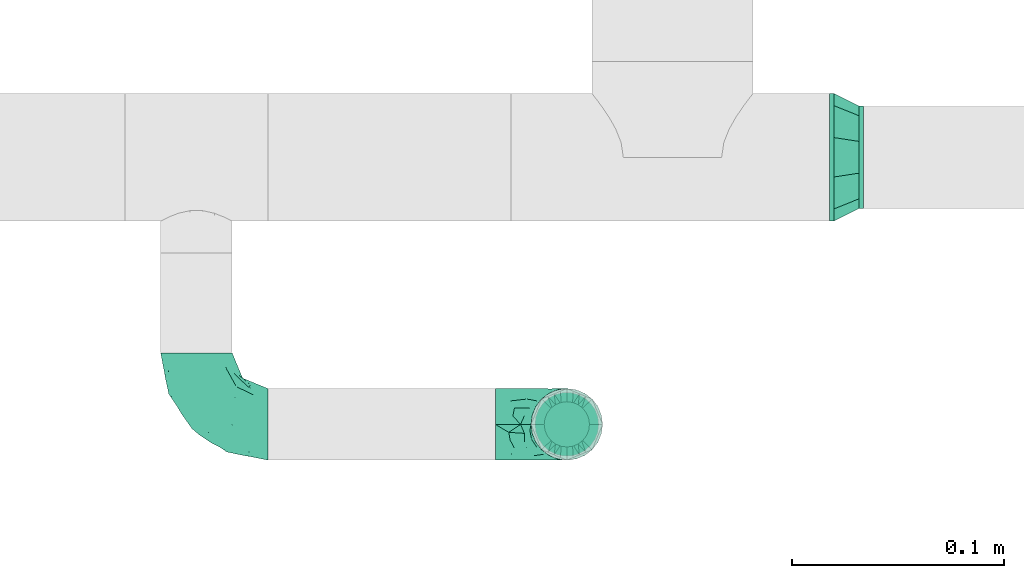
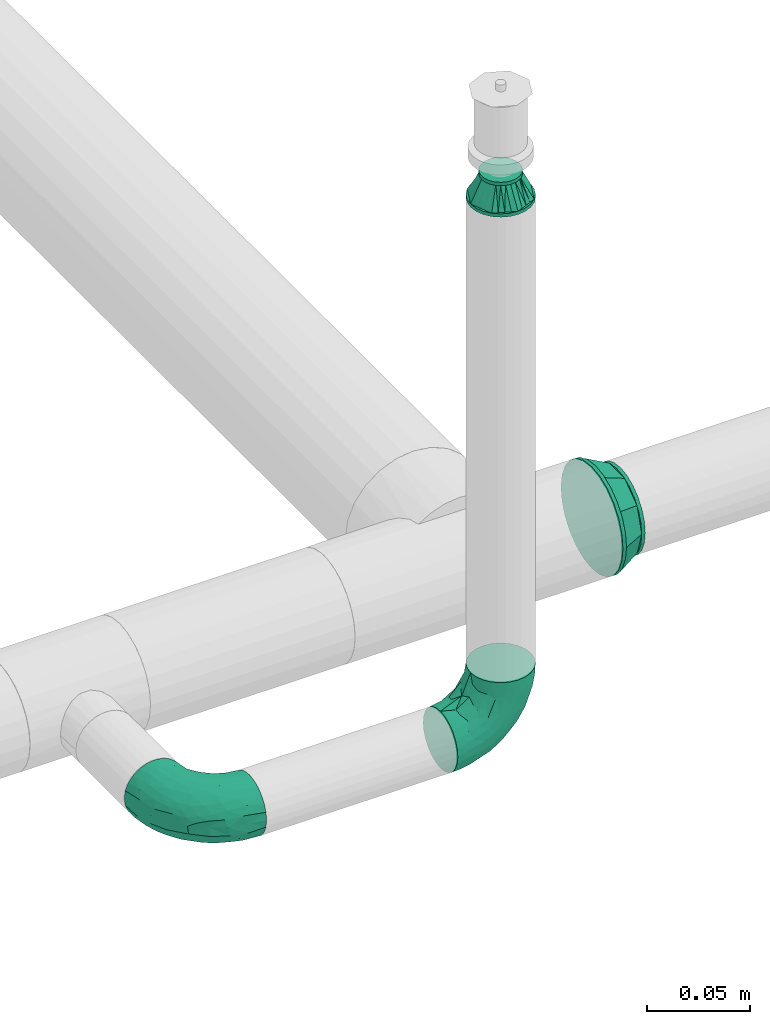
# One storey, part 79 of 157: 4 flow fittings.
"""IFC2X3 building model written with IfcOpenShell, lengths in millimetres."""

from ifc_helpers import new_model, entity, si_unit, converted_unit, derived_unit, direction, frame, origin_with_axes, place, context, subcontext, project, spatial, open_shell, surface_model, source, transform, mapped, type_object, element, save


model = new_model("IFC2X3")

# Units and contexts
model_context = context("Model", 3, precision=0.01, world=frame((0.0, 4.29681676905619e-09, 0.0)), true_north=direction((4.01073788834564e-13, 1.0)))
plan_context = context("Plan", 3, precision=0.01, world=frame((0.0, 4.29681676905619e-09, 0.0)), true_north=direction((4.01073788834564e-13, 1.0)))
body_context = subcontext(model_context, "Body", "Model", "MODEL_VIEW")
ifc_project = project(units=[converted_unit("PLANEANGLEUNIT", "DEGREE", entity("IfcPositiveLengthMeasure", 0.0174532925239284), si_unit("PLANEANGLEUNIT", "RADIAN"), dimensions=[0, 0, 0, 0, 0, 0, 0]), si_unit("AREAUNIT", "SQUARE_METRE"), si_unit("LENGTHUNIT", "METRE", prefix="MILLI"), si_unit("MASSUNIT", "GRAM", prefix="KILO"), si_unit("POWERUNIT", "WATT"), si_unit("PRESSUREUNIT", "PASCAL"), si_unit("FORCEUNIT", "NEWTON", prefix="KILO"), si_unit("ELECTRICCURRENTUNIT", "AMPERE"), si_unit("THERMODYNAMICTEMPERATUREUNIT", "DEGREE_CELSIUS"), si_unit("TIMEUNIT", "SECOND"), si_unit("VOLUMEUNIT", "CUBIC_METRE"), derived_unit("LINEARVELOCITYUNIT", [(si_unit("LENGTHUNIT", "METRE"), 1), (si_unit("TIMEUNIT", "SECOND"), -1)]), derived_unit("VOLUMETRICFLOWRATEUNIT", [(si_unit("VOLUMEUNIT", "CUBIC_METRE"), 1), (si_unit("TIMEUNIT", "SECOND"), -1)]), derived_unit("THERMALTRANSMITTANCEUNIT", [(si_unit("POWERUNIT", "WATT"), 1), (si_unit("THERMODYNAMICTEMPERATUREUNIT", "KELVIN"), -1), (si_unit("AREAUNIT", "SQUARE_METRE"), -1)])], contexts=[model_context, plan_context])

# Site, building, storey
site_placement = place(None, frame((0.0, -4.29681676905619e-09, 0.0), z_axis=(0.0, 0.0, 1.0), x_axis=(1.0, 0.0, 0.0)))
site = spatial("IfcSite", under=ifc_project, at=site_placement, CompositionType="ELEMENT")
building_placement = place(site_placement, frame((0.0, 4.29681676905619e-09, 0.0), z_axis=(0.0, 0.0, 1.0), x_axis=(1.0, 0.0, 0.0)))
building = spatial("IfcBuilding", under=site, at=building_placement, Name="mc-building", CompositionType="ELEMENT")
storey_placement = place(building_placement, frame((0.0, 0.0, 204000.0), z_axis=(0.0, 0.0, 1.0), x_axis=(1.0, 0.0, 0.0)))
storey = spatial("IfcBuildingStorey", under=building, at=storey_placement, Name="Nivå D", CompositionType="ELEMENT", Elevation=204000.0)

# Flow fittings
pipe_fitting_type_1 = type_object("IfcPipeFittingType", Name="magi_pipe_fe_elbow_short_001", PredefinedType="BEND")
shared_shape_1 = source(origin_with_axes(), body_context, "Body", "SurfaceModel", [
    surface_model("IfcShellBasedSurfaceModel", [(-33.8, 8.45, -14.63583), (-33.8, 4.37404, -16.32415), (-33.8, 11.9501, -11.9501), (-33.8, -11.9501, -11.9501), (-33.8, -14.63583, -8.45), (-33.8, -8.45, -14.63583), (-33.8, 0.0, -16.9), (-33.8, -4.37404, -16.32415), (-33.8, -4.37404, 16.32415), (-33.8, 0.0, 16.9), (-33.8, -8.45, 14.63583), (-33.8, 16.32415, -4.37404), (-33.8, 14.63583, -8.45), (-33.8, -16.32415, -4.37404), (-33.8, -16.9, 0.0), (-33.8, -16.32415, 4.37404), (-33.8, 11.9501, 11.9501), (-33.8, 14.63583, 8.45), (-33.8, 16.32415, 4.37404), (-33.8, 4.37404, 16.32415), (-33.8, 8.45, 14.63583), (-33.8, -14.63583, 8.45), (-33.8, -11.9501, 11.9501), (-33.8, 16.9, 0.0), (-11.9501, 33.8, -11.9501), (0.0, 33.8, -16.9), (-4.37404, 33.8, -16.32415), (-8.45, 33.8, -14.63583), (-14.63583, 33.8, -8.45), (-16.32415, 33.8, -4.37404), (14.63583, 33.8, -8.45), (8.45, 33.8, 14.63583), (16.32415, 33.8, -4.37404), (8.45, 33.8, -14.63583), (11.9501, 33.8, -11.9501), (4.37404, 33.8, -16.32415), (16.32415, 33.8, 4.37404), (16.9, 33.8, 0.0), (-11.9501, 33.8, 11.9501), (-16.32415, 33.8, 4.37404), (-14.63583, 33.8, 8.45), (-8.45, 33.8, 14.63583), (-4.37404, 33.8, 16.32415), (11.9501, 33.8, 11.9501), (14.63583, 33.8, 8.45), (0.0, 33.8, 16.9), (4.37404, 33.8, 16.32415), (-16.9, 33.8, 0.0), (-24.79389, -13.12945, 9.48721), (-22.19287, -9.75018, 12.59315), (-24.09897, -14.97035, 0.0), (-14.93934, -10.76256, 8.5297), (-22.46095, -14.75051, 5.27077), (14.75051, 22.46094, 5.27077), (11.9251, 13.23888, 4.33236), (13.04069, 14.39795, 0.0), (7.71387, 13.68847, 11.55891), (9.75018, 22.19287, 12.59315), (4.10169, 13.0571, 14.04018), (-24.84007, -6.39063, 15.2048), (-25.81779, -2.23879, 16.61097), (-23.66549, 2.59054, 16.87119), (-26.50418, 14.06512, 11.08152), (-24.21253, 17.66365, 7.72657), (-29.58514, 15.86957, 7.00283), (-6.17382, -7.5455, 0.0), (-13.23888, -11.9251, 4.33236), (-14.39795, -13.04069, 0.0), (-17.81434, 18.87373, 11.97104), (-6.30846, 29.15138, 15.82987), (-2.31622, 25.28002, 16.85849), (-29.23923, 10.23435, 13.77053), (-1.45439, -2.85688, 7.61475), (-0.28326, 0.34872, 10.09509), (-5.74484, -4.04709, 10.4122), (-4.41137, 11.31918, 16.59407), (-8.39727, 3.10034, 15.7812), (-1.72649, 9.1306, 15.53089), (-17.39909, 24.75344, 7.64977), (-26.19233, 20.0512, 0.0), (-28.14518, 17.29657, 4.25857), (-26.05147, 6.6281, 15.96447), (-5.87354, 16.61944, 16.86968), (-12.51807, 12.51807, 16.48937), (-10.06312, 7.38516, 16.81295), (-3.01882, 3.01882, 13.81718), (-13.0571, -4.10169, 14.04018), (-16.82553, -0.15166, 16.38038), (10.76256, 14.93934, 8.5297), (13.12945, 24.79389, 9.48721), (6.39063, 24.84007, 15.2048), (2.23879, 25.81779, 16.61097), (-13.68847, -7.71387, 11.55891), (14.97035, 24.09897, 0.0), (-7.30894, 22.89991, 16.09489), (-10.67958, 26.17414, 14.008), (-12.78295, 18.26924, 15.06066), (-13.88562, 22.45231, 12.93244), (-18.04944, 15.16501, 14.04434), (-23.11658, 20.08178, 4.02986), (-21.84989, 21.84989, 0.0), (-18.55817, 25.48277, 3.93065), (-13.95142, 26.94732, 11.03289), (-18.57098, 7.23906, 16.59756), (-16.58335, 4.14122, 16.89279), (-17.96666, 11.46709, 15.63151), (-9.84453, 17.54304, 16.18938), (0.15166, 16.82553, 16.38038), (-23.27207, 11.47201, 14.23154), (3.84842, 5.86994, 10.70473), (-8.0212, -7.54413, 7.93275), (1.00345, -2.19508, 4.57414), (5.13203, 3.01004, 5.90201), (5.24161, 1.7543, 2.53265), (8.70457, 7.04947, 3.99182), (-20.0512, 26.19233, 0.0), (8.4852, 8.76699, 7.09296), (-4.55488, -6.72064, 4.90681), (2.05031, -2.05031, 0.0), (7.5455, 6.17382, 0.0), (-26.75399, 2.1369, -16.845), (-14.61995, 24.73803, -11.27736), (-28.45274, -13.45335, -9.81895), (-26.00469, 6.63555, -15.96645), (-23.06726, 20.04573, -4.26202), (-13.80647, -4.26506, -14.17873), (-14.67501, -0.21081, -16.07388), (-6.7902, -0.2828, -13.8478), (-24.53586, 11.08096, -14.13417), (-26.72048, 14.00837, -11.05776), (10.0967, 24.44989, -12.75976), (5.83237, 21.40218, -15.03047), (6.66249, 28.54238, -15.38093), (-20.38182, 15.48705, -12.74596), (12.53268, 21.23441, -9.15363), (12.54494, 15.67504, -5.54878), (9.7522, 12.89279, -8.66343), (-15.65186, 19.64213, -13.01327), (-12.03528, 20.66498, -14.67665), (-15.61907, 15.61906, -14.83879), (-25.56551, -15.26206, 0.0), (-24.65452, -15.12934, -5.50955), (13.45335, 28.45274, -9.81895), (15.12934, 24.65452, -5.50955), (-7.35442, -8.31014, -5.65563), (-15.67504, -12.54494, -5.54878), (-24.44989, -10.0967, -12.75976), (0.16522, 0.41303, -9.71728), (-5.70658, -5.33066, -8.89288), (-5.13869, -2.37198, -11.53565), (-21.23441, -12.53268, -9.15363), (0.71146, 7.93863, -14.09382), (0.21081, 14.67501, -16.07388), (3.49291, 14.42772, -14.76381), (-24.89911, -2.13088, -16.591), (-28.54238, -6.66249, -15.38093), (-18.44386, -7.71663, -13.26957), (2.13088, 24.89911, -16.591), (-28.64342, 17.44413, -2.89318), (1.70017, -1.28722, -5.09504), (-16.57067, 26.81947, -7.36596), (-17.69055, 27.4263, -3.76405), (-12.89279, -9.7522, -8.66343), (-5.96611, 5.96611, -15.95814), (-20.53709, 20.09345, -8.28985), (-2.1369, 26.75399, -16.845), (-6.89872, 24.58781, -16.02578), (-10.60739, 26.53157, -13.98044), (-21.40218, -5.83237, -15.03047), (2.93192, 5.89627, -11.55917), (6.89393, 12.61842, -11.82233), (5.58056, 5.95325, -8.79455), (-3.99512, 18.61798, -16.89635), (8.31014, 7.35442, -5.65563), (-9.1383, 9.86148, -16.89041), (-9.99983, 16.02119, -16.39699), (-16.68576, 9.78031, -16.34199), (-27.01915, 16.61158, -7.12979), (15.26206, 25.56551, 0.0), (-18.61798, 3.99512, -16.89635), (-19.37495, 27.82495, 0.0), (-12.61842, -6.89393, -11.82233), (-18.84705, 19.14018, -10.96545)], [open_shell([[[0, 1, 2]], [[3, 4, 5]], [[6, 7, 5]], [[8, 9, 10]], [[1, 6, 2]], [[11, 12, 2]], [[4, 2, 6]], [[2, 13, 10]], [[5, 4, 6]], [[2, 4, 13]], [[14, 15, 13]], [[11, 2, 16]], [[11, 17, 18]], [[11, 16, 17]], [[19, 20, 16]], [[16, 2, 10]], [[19, 16, 10]], [[21, 22, 15]], [[22, 13, 15]], [[22, 10, 13]], [[10, 9, 19]], [[11, 18, 23]], [[24, 25, 26]], [[24, 26, 27]], [[24, 28, 29]], [[25, 24, 30]], [[31, 32, 24]], [[33, 30, 34]], [[33, 35, 25]], [[25, 30, 33]], [[32, 30, 24]], [[32, 36, 37]], [[38, 24, 29]], [[39, 40, 29]], [[40, 38, 29]], [[38, 41, 42]], [[38, 31, 24]], [[31, 38, 42]], [[36, 43, 44]], [[36, 32, 43]], [[31, 45, 46]], [[32, 31, 43]], [[42, 45, 31]], [[39, 29, 47]], [[22, 48, 49]], [[15, 14, 50]], [[51, 48, 52]], [[53, 54, 55]], [[48, 22, 21]], [[15, 52, 21]], [[56, 57, 58]], [[49, 10, 22]], [[49, 59, 10]], [[9, 60, 61]], [[62, 63, 64]], [[65, 66, 67]], [[57, 43, 31]], [[62, 68, 63]], [[42, 69, 70]], [[20, 71, 16]], [[8, 60, 9]], [[72, 73, 74]], [[75, 76, 77]], [[16, 62, 17]], [[40, 39, 78]], [[79, 23, 80]], [[64, 18, 17]], [[9, 61, 19]], [[19, 81, 20]], [[82, 83, 84]], [[74, 85, 86]], [[59, 86, 87]], [[88, 89, 57]], [[90, 31, 46]], [[44, 53, 36]], [[46, 45, 91]], [[54, 53, 88]], [[44, 89, 53]], [[92, 86, 49]], [[89, 44, 43]], [[10, 59, 8]], [[53, 55, 93]], [[93, 36, 53]], [[66, 52, 67]], [[94, 82, 70]], [[95, 96, 94]], [[97, 98, 96]], [[79, 99, 100]], [[41, 38, 95]], [[101, 100, 99]], [[68, 78, 63]], [[42, 41, 69]], [[23, 18, 80]], [[95, 94, 69]], [[78, 101, 99]], [[38, 102, 95]], [[70, 45, 42]], [[97, 95, 102]], [[15, 50, 52]], [[90, 57, 31]], [[57, 90, 58]], [[81, 19, 61]], [[103, 104, 84]], [[105, 81, 103]], [[38, 40, 102]], [[106, 96, 83]], [[94, 106, 82]], [[91, 70, 107]], [[71, 62, 16]], [[62, 108, 98]], [[86, 59, 49]], [[67, 52, 50]], [[60, 59, 87]], [[92, 49, 51]], [[86, 85, 76]], [[91, 90, 46]], [[37, 36, 93]], [[107, 77, 58]], [[107, 58, 90]], [[58, 85, 109]], [[110, 74, 92]], [[72, 74, 110]], [[66, 51, 52]], [[72, 111, 112]], [[113, 114, 112]], [[56, 88, 57]], [[52, 48, 21]], [[49, 48, 51]], [[57, 89, 43]], [[53, 89, 88]], [[103, 81, 61]], [[71, 81, 108]], [[18, 64, 80]], [[63, 78, 99]], [[47, 115, 101]], [[101, 115, 100]], [[40, 78, 102]], [[68, 102, 78]], [[97, 96, 95]], [[105, 98, 108]], [[103, 84, 83]], [[107, 70, 82]], [[76, 84, 87]], [[82, 84, 75]], [[70, 91, 45]], [[90, 91, 107]], [[59, 60, 8]], [[61, 60, 87]], [[73, 85, 74]], [[109, 112, 116]], [[103, 61, 104]], [[105, 103, 83]], [[96, 105, 83]], [[81, 105, 108]], [[96, 98, 105]], [[62, 98, 68]], [[61, 87, 104]], [[87, 84, 104]], [[86, 76, 87]], [[77, 76, 85]], [[58, 77, 85]], [[75, 77, 107]], [[82, 75, 107]], [[76, 75, 84]], [[81, 71, 20]], [[62, 71, 108]], [[95, 69, 41]], [[70, 69, 94]], [[62, 64, 17]], [[80, 63, 99]], [[63, 80, 64]], [[80, 99, 79]], [[66, 65, 117]], [[110, 66, 117]], [[112, 114, 116]], [[118, 117, 65]], [[110, 92, 51]], [[112, 111, 113]], [[119, 55, 54]], [[74, 86, 92]], [[58, 109, 56]], [[116, 56, 109]], [[66, 110, 51]], [[72, 110, 117]], [[111, 72, 117]], [[73, 112, 109]], [[117, 118, 111]], [[113, 111, 118]], [[118, 119, 113]], [[114, 119, 54]], [[119, 114, 113]], [[116, 54, 88]], [[54, 116, 114]], [[116, 88, 56]], [[112, 73, 72]], [[85, 73, 109]], [[78, 39, 101]], [[47, 101, 39]], [[102, 68, 97]], [[97, 68, 98]], [[82, 106, 83]], [[94, 96, 106]], [[1, 120, 6]], [[28, 24, 121]], [[3, 122, 4]], [[0, 123, 1]], [[100, 124, 79]], [[125, 126, 127]], [[128, 2, 129]], [[130, 131, 132]], [[128, 129, 133]], [[134, 135, 136]], [[137, 138, 139]], [[128, 0, 2]], [[67, 140, 141]], [[134, 142, 143]], [[141, 13, 4]], [[144, 65, 145]], [[146, 3, 5]], [[147, 148, 149]], [[145, 141, 150]], [[151, 152, 153]], [[154, 7, 6]], [[5, 155, 146]], [[150, 146, 156]], [[155, 5, 7]], [[143, 135, 134]], [[35, 157, 25]], [[23, 79, 158]], [[148, 159, 144]], [[160, 161, 29]], [[145, 162, 144]], [[163, 152, 151]], [[29, 28, 160]], [[121, 164, 160]], [[33, 34, 130]], [[25, 165, 26]], [[26, 165, 166]], [[142, 34, 30]], [[24, 27, 167]], [[124, 161, 164]], [[157, 35, 132]], [[155, 154, 168]], [[123, 0, 128]], [[169, 170, 171]], [[172, 157, 152]], [[26, 166, 27]], [[132, 35, 33]], [[142, 130, 34]], [[168, 154, 126]], [[136, 135, 173]], [[133, 137, 139]], [[2, 12, 129]], [[170, 131, 130]], [[30, 32, 143]], [[172, 174, 175]], [[176, 123, 128]], [[158, 177, 11]], [[135, 55, 119]], [[167, 27, 166]], [[175, 166, 172]], [[137, 167, 138]], [[122, 141, 4]], [[140, 14, 13]], [[32, 37, 178]], [[170, 130, 134]], [[152, 157, 131]], [[165, 157, 172]], [[153, 170, 151]], [[152, 163, 174]], [[168, 125, 156]], [[122, 146, 150]], [[120, 154, 6]], [[179, 174, 126]], [[179, 126, 154]], [[126, 163, 127]], [[162, 145, 150]], [[140, 13, 141]], [[32, 178, 143]], [[55, 143, 178]], [[177, 129, 12]], [[128, 133, 139]], [[176, 128, 139]], [[120, 123, 179]], [[121, 160, 28]], [[161, 100, 180]], [[166, 175, 138]], [[121, 24, 167]], [[161, 47, 29]], [[79, 124, 158]], [[124, 164, 177]], [[161, 124, 100]], [[136, 171, 170]], [[127, 163, 151]], [[147, 171, 159]], [[148, 144, 162]], [[127, 151, 169]], [[127, 181, 125]], [[129, 177, 164]], [[12, 11, 177]], [[159, 65, 144]], [[67, 141, 145]], [[143, 55, 135]], [[135, 119, 173]], [[123, 120, 1]], [[154, 120, 179]], [[157, 165, 25]], [[166, 165, 172]], [[172, 152, 174]], [[176, 139, 175]], [[126, 174, 163]], [[176, 174, 179]], [[174, 176, 175]], [[123, 176, 179]], [[150, 181, 162]], [[127, 149, 181]], [[181, 148, 162]], [[159, 148, 147]], [[171, 136, 173]], [[170, 134, 136]], [[159, 171, 173]], [[171, 147, 169]], [[169, 147, 149]], [[151, 170, 169]], [[164, 182, 129]], [[182, 121, 137]], [[181, 149, 148]], [[169, 149, 127]], [[182, 137, 133]], [[167, 137, 121]], [[166, 138, 167]], [[175, 139, 138]], [[129, 182, 133]], [[121, 182, 164]], [[161, 160, 164]], [[47, 161, 180]], [[177, 158, 124]], [[23, 158, 11]], [[130, 132, 33]], [[157, 132, 131]], [[143, 142, 30]], [[130, 142, 134]], [[154, 155, 7]], [[146, 155, 168]], [[146, 122, 3]], [[141, 122, 150]], [[152, 131, 153]], [[159, 119, 118]], [[67, 145, 65]], [[170, 153, 131]], [[119, 159, 173]], [[159, 118, 65]], [[156, 125, 181]], [[126, 125, 168]], [[150, 156, 181]], [[168, 156, 146]]])]),
])
for number, where, z_axis, x_axis, name in (
    (1, (520435.35, 413913.20018, 2690.0), (0.0, 1.0, 0.0), (0.0, 0.0, -1.0), "magi_pipe_fe_elbow_short_001"),
    (2, (520260.35, 413913.20018, 2690.0), (0.0, 0.0, 1.0), (0.0, -1.0, 0.0), "magi_pipe_fe_elbow_short_001"),
):
    element("IfcFlowFitting", number, at=place(storey_placement, frame(where, z_axis=z_axis, x_axis=x_axis)), inside=storey, type_object=pipe_fitting_type_1, Name=name, context=body_context, shape_type="MappedRepresentation", body=[
        mapped(shared_shape_1, transform((0.0, 0.0, 0.0), scale=1.0)),
    ])
pipe_fitting_type_2 = type_object("IfcPipeFittingType", Name="magi_pipe_fe_reducer_centric_short_NOR", PredefinedType="TRANSITION")
shared_shape_2 = source(origin_with_axes(), body_context, "Body", "SurfaceModel", [
    surface_model("IfcShellBasedSurfaceModel", [(-2.0, -7.56604, -7.56604), (-2.0, -10.33541, -2.76936), (-2.0, -5.35, -9.26647), (-2.0, 5.35, -9.26647), (-2.0, 10.33541, -2.76936), (-2.0, 7.56604, -7.56604), (12.4, 11.9501, 11.9501), (12.4, 0.0, 16.9), (12.4, 11.9501, -11.9501), (12.4, 16.9, 0.0), (0.0, -10.7, 0.0), (0.0, -5.35, 9.26647), (0.0, -5.35, -9.26647), (0.0, 10.7, 0.0), (12.4, 15.66253, -2.98753), (12.4, 8.96258, -13.18758), (0.0, 6.6875, -6.94985), (12.4, -15.66253, -2.98753), (12.4, -16.9, 0.0), (12.4, 5.97505, -14.42505), (0.0, 5.35, -9.26647), (12.4, 14.42505, -5.97505), (0.0, 8.025, -4.63324), (0.0, 9.3625, -2.31662), (0.0, -9.3625, -2.31662), (0.0, -8.025, -4.63324), (12.4, -14.42505, -5.97505), (12.4, 13.18758, -8.96258), (12.4, -13.18758, -8.96258), (12.4, -11.9501, -11.9501), (0.0, -6.6875, -6.94985), (12.4, -8.96258, -13.18758), (12.4, -5.97505, -14.42505), (12.4, -15.66253, 2.98753), (12.4, -8.96258, 13.18758), (0.0, -6.6875, 6.94985), (12.4, -11.9501, 11.9501), (12.4, 15.66253, 2.98753), (12.4, -5.97505, 14.42505), (12.4, -14.42505, 5.97505), (0.0, -8.025, 4.63324), (0.0, -9.3625, 2.31662), (0.0, 9.3625, 2.31662), (0.0, 8.025, 4.63324), (12.4, 14.42505, 5.97505), (12.4, -13.18758, 8.96258), (12.4, 13.18758, 8.96258), (0.0, 6.6875, 6.94985), (12.4, 8.96258, 13.18758), (0.0, 5.35, 9.26647), (12.4, 5.97505, 14.42505), (14.4, 4.37404, -16.32415), (14.4, 8.45, -14.63583), (14.4, 11.9501, -11.9501), (14.4, -8.45, -14.63583), (14.4, 16.32415, -4.37404), (14.4, 16.32415, 4.37404), (14.4, 14.63583, -8.45), (14.4, 0.0, -16.9), (14.4, -4.37404, -16.32415), (14.4, -11.9501, -11.9501), (14.4, -16.32415, -4.37404), (14.4, -14.63583, -8.45), (14.4, -16.32415, 4.37404), (14.4, 16.9, 0.0), (14.4, 14.63583, 8.45), (14.4, 11.9501, 11.9501), (14.4, 4.37404, 16.32415), (14.4, 8.45, 14.63583), (14.4, 0.0, 16.9), (14.4, -14.63583, 8.45), (14.4, -16.9, 0.0), (14.4, -8.45, 14.63583), (14.4, -11.9501, 11.9501), (14.4, -4.37404, 16.32415), (12.4, 4.37404, 16.32415), (12.4, -14.63583, 8.45), (12.4, 16.32415, 4.37404), (12.4, 8.45, 14.63583), (12.4, 14.63583, 8.45), (12.4, -8.45, 14.63583), (12.4, -4.37404, 16.32415), (12.4, -16.32415, 4.37404), (12.4, -16.32415, -4.37404), (12.4, -8.45, -14.63583), (12.4, 16.32415, -4.37404), (12.4, 14.63583, -8.45), (12.4, 8.45, -14.63583), (12.4, 4.37404, -16.32415), (12.4, 0.0, -16.9), (12.4, -14.63583, -8.45), (12.4, -4.37404, -16.32415), (-2.0, 2.76936, 10.33541), (-2.0, 0.0, 10.7), (-2.0, 5.35, 9.26647), (-2.0, 7.56604, 7.56604), (-2.0, 9.26647, 5.35), (-2.0, 10.33541, 2.76936), (-2.0, -10.33541, 2.76936), (-2.0, -2.76936, 10.33541), (-2.0, -7.56604, 7.56604), (-2.0, -5.35, 9.26647), (-2.0, -9.26647, 5.35), (-2.0, -10.7, 0.0), (-2.0, 9.26647, -5.35), (-2.0, 2.76936, -10.33541), (-2.0, -9.26647, -5.35), (-2.0, 0.0, -10.7), (-2.0, -2.76936, -10.33541), (-2.0, 10.7, 0.0), (0.0, 0.0, -10.7), (0.0, 2.76936, -10.33541), (0.0, 10.33541, -2.76936), (0.0, 7.56604, -7.56604), (0.0, -10.33541, -2.76936), (0.0, 9.26647, -5.35), (0.0, 0.0, 10.7), (0.0, -2.76936, -10.33541), (0.0, -7.56604, -7.56604), (0.0, -9.26647, -5.35), (0.0, 10.33541, 2.76936), (0.0, 9.26647, 5.35), (0.0, 7.56604, 7.56604), (0.0, 2.76936, 10.33541), (0.0, -7.56604, 7.56604), (0.0, -10.33541, 2.76936), (0.0, -9.26647, 5.35), (0.0, -2.76936, 10.33541), (0.0, 2.675, -9.26647), (0.0, -2.675, -9.26647), (12.4, 2.98753, -15.66253), (0.0, 0.0, -9.26647), (12.4, -2.98753, -15.66253), (0.0, -2.675, 9.26647), (0.0, 2.675, 9.26647), (12.4, -2.98753, 15.66253), (0.0, 0.0, 9.26647), (12.4, 2.98753, 15.66253)], [open_shell([[[0, 1, 2]], [[3, 4, 5]], [[6, 7, 8]], [[8, 9, 6]], [[10, 11, 12]], [[13, 9, 14]], [[15, 16, 8]], [[17, 18, 10]], [[15, 19, 20]], [[21, 22, 23]], [[24, 25, 26]], [[22, 21, 27]], [[28, 26, 25]], [[29, 30, 31]], [[12, 32, 31]], [[10, 18, 33]], [[34, 35, 36]], [[37, 9, 13]], [[34, 38, 11]], [[39, 40, 41]], [[42, 43, 44]], [[40, 39, 45]], [[46, 44, 43]], [[6, 47, 48]], [[49, 50, 48]], [[51, 52, 53]], [[54, 51, 53]], [[53, 55, 56]], [[55, 53, 57]], [[53, 56, 54]], [[58, 54, 59]], [[58, 51, 54]], [[60, 61, 62]], [[61, 60, 54]], [[54, 63, 61]], [[56, 55, 64]], [[56, 65, 66]], [[56, 66, 67]], [[67, 63, 54]], [[67, 66, 68]], [[63, 67, 69]], [[69, 70, 63]], [[71, 61, 63]], [[70, 72, 73]], [[70, 69, 72]], [[72, 69, 74]], [[54, 56, 67]], [[75, 76, 7]], [[77, 75, 78]], [[6, 79, 77]], [[6, 77, 78]], [[76, 75, 77]], [[80, 76, 36]], [[80, 81, 7]], [[7, 76, 80]], [[82, 76, 77]], [[82, 83, 18]], [[82, 77, 84]], [[77, 85, 8]], [[8, 85, 86]], [[8, 87, 88]], [[84, 77, 8]], [[88, 89, 8]], [[83, 29, 90]], [[29, 83, 84]], [[84, 89, 91]], [[83, 82, 84]], [[8, 89, 84]], [[85, 77, 9]], [[83, 61, 18]], [[90, 62, 83]], [[54, 29, 84]], [[90, 29, 60]], [[59, 84, 91]], [[83, 62, 61]], [[61, 71, 18]], [[59, 54, 84]], [[60, 29, 54]], [[60, 62, 90]], [[58, 59, 91]], [[91, 89, 58]], [[88, 51, 89]], [[87, 52, 88]], [[57, 8, 86]], [[87, 8, 53]], [[55, 86, 85]], [[87, 53, 52]], [[52, 51, 88]], [[64, 55, 85]], [[57, 86, 55]], [[57, 53, 8]], [[9, 64, 85]], [[89, 51, 58]], [[77, 56, 9]], [[79, 65, 77]], [[68, 6, 78]], [[79, 6, 66]], [[67, 78, 75]], [[77, 65, 56]], [[56, 64, 9]], [[67, 68, 78]], [[66, 6, 68]], [[66, 65, 79]], [[69, 67, 75]], [[75, 7, 69]], [[81, 74, 7]], [[80, 72, 81]], [[70, 36, 76]], [[80, 36, 73]], [[63, 76, 82]], [[80, 73, 72]], [[72, 74, 81]], [[71, 63, 82]], [[70, 76, 63]], [[70, 73, 36]], [[18, 71, 82]], [[7, 74, 69]], [[92, 1, 93]], [[94, 1, 92]], [[95, 96, 97]], [[95, 97, 94]], [[98, 93, 1]], [[99, 100, 101]], [[99, 93, 100]], [[100, 98, 102]], [[93, 98, 100]], [[98, 1, 103]], [[94, 97, 1]], [[1, 97, 4]], [[5, 4, 104]], [[4, 3, 1]], [[105, 1, 3]], [[1, 0, 106]], [[2, 107, 108]], [[2, 1, 105]], [[105, 107, 2]], [[4, 97, 109]], [[20, 110, 111]], [[112, 20, 113]], [[114, 20, 112]], [[112, 113, 115]], [[116, 114, 112]], [[110, 12, 117]], [[110, 20, 12]], [[118, 114, 119]], [[114, 118, 12]], [[20, 114, 12]], [[112, 13, 120]], [[120, 121, 122]], [[120, 122, 123]], [[116, 112, 123]], [[123, 122, 49]], [[116, 124, 114]], [[125, 124, 126]], [[10, 114, 125]], [[124, 127, 11]], [[125, 114, 124]], [[127, 124, 116]], [[123, 112, 120]], [[1, 114, 103]], [[106, 119, 1]], [[12, 0, 2]], [[106, 0, 118]], [[117, 2, 108]], [[1, 119, 114]], [[114, 10, 103]], [[117, 12, 2]], [[118, 0, 12]], [[118, 119, 106]], [[110, 117, 108]], [[108, 107, 110]], [[105, 111, 107]], [[3, 20, 105]], [[115, 5, 104]], [[3, 5, 113]], [[112, 104, 4]], [[3, 113, 20]], [[20, 111, 105]], [[13, 112, 4]], [[115, 104, 112]], [[115, 113, 5]], [[109, 13, 4]], [[107, 111, 110]], [[97, 120, 109]], [[96, 121, 97]], [[49, 95, 94]], [[96, 95, 122]], [[123, 94, 92]], [[97, 121, 120]], [[120, 13, 109]], [[123, 49, 94]], [[122, 95, 49]], [[122, 121, 96]], [[116, 123, 92]], [[92, 93, 116]], [[99, 127, 93]], [[101, 11, 99]], [[126, 100, 102]], [[101, 100, 124]], [[125, 102, 98]], [[101, 124, 11]], [[11, 127, 99]], [[10, 125, 98]], [[126, 102, 125]], [[126, 124, 100]], [[103, 10, 98]], [[93, 127, 116]], [[18, 7, 36]], [[18, 29, 8]], [[89, 8, 29]], [[18, 8, 7]], [[13, 11, 49]], [[13, 20, 12]], [[13, 12, 11]], [[24, 26, 17]], [[10, 24, 17]], [[16, 15, 20]], [[30, 12, 31]], [[23, 14, 21]], [[19, 128, 20]], [[27, 8, 16]], [[32, 12, 129]], [[30, 28, 25]], [[130, 131, 128]], [[129, 132, 32]], [[16, 22, 27]], [[13, 14, 23]], [[128, 19, 130]], [[130, 89, 131]], [[131, 132, 129]], [[89, 132, 131]], [[28, 30, 29]], [[42, 44, 37]], [[13, 42, 37]], [[35, 34, 11]], [[47, 49, 48]], [[41, 33, 39]], [[38, 133, 11]], [[45, 36, 35]], [[50, 49, 134]], [[47, 46, 43]], [[135, 136, 133]], [[134, 137, 50]], [[35, 40, 45]], [[10, 33, 41]], [[133, 38, 135]], [[135, 7, 136]], [[136, 137, 134]], [[7, 137, 136]], [[46, 47, 6]]])]),
])
flow_fitting_1_placement = place(storey_placement, frame((520435.35, 413913.20018, 3014.54800000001), z_axis=(0.0, 1.0, 0.0), x_axis=(0.0, 0.0, -1.0)))
element("IfcFlowFitting", 3, at=flow_fitting_1_placement, inside=storey, type_object=pipe_fitting_type_2, Name="magi_pipe_fe_reducer_centric_short_NOR", context=body_context, shape_type="MappedRepresentation", body=[
    mapped(shared_shape_2, transform((0.0, 0.0, 0.0), scale=1.0)),
])
shared_shape_3 = source(origin_with_axes(), body_context, "Body", "SurfaceModel", [
    surface_model("IfcShellBasedSurfaceModel", [(-2.0, 0.0, 30.2), (-2.0, 7.81634, 29.17096), (-2.0, 15.1, 26.15397), (-2.0, 21.35462, 21.35462), (-2.0, 26.15397, 15.1), (-2.0, 29.17096, 7.81634), (-2.0, -29.17096, 7.81634), (-2.0, 30.2, 0.0), (-2.0, -7.81634, 29.17096), (-2.0, -21.35462, 21.35462), (-2.0, -15.1, 26.15397), (-2.0, -26.15397, 15.1), (-2.0, -30.2, 0.0), (-2.0, 29.17096, -7.81634), (-2.0, 26.15397, -15.1), (-2.0, 21.35462, -21.35462), (-2.0, 15.1, -26.15397), (-2.0, 7.81634, -29.17096), (-2.0, -15.1, -26.15397), (-2.0, -29.17096, -7.81634), (-2.0, -21.35462, -21.35462), (-2.0, -26.15397, -15.1), (-2.0, 0.0, -30.2), (-2.0, -7.81634, -29.17096), (0.0, 7.81634, -29.17096), (0.0, 15.1, -26.15397), (0.0, 21.35462, -21.35462), (0.0, 30.2, 0.0), (0.0, 26.15397, -15.1), (0.0, 29.17096, -7.81634), (0.0, -15.1, -26.15397), (0.0, -29.17096, 7.81634), (0.0, 0.0, -30.2), (0.0, -7.81634, -29.17096), (0.0, -21.35462, -21.35462), (0.0, -29.17096, -7.81634), (0.0, -26.15397, -15.1), (0.0, 29.17096, 7.81634), (0.0, 26.15397, 15.1), (0.0, 21.35462, 21.35462), (0.0, -21.35462, 21.35462), (0.0, 15.1, 26.15397), (0.0, 7.81634, 29.17096), (0.0, 0.0, 30.2), (0.0, -26.15397, 15.1), (0.0, -30.2, 0.0), (0.0, -7.81634, 29.17096), (0.0, -15.1, 26.15397), (14.0, 12.1, -20.95781), (14.0, -24.2, 0.0), (14.0, 6.26342, -23.37541), (14.0, 23.37541, -6.26342), (14.0, 17.11198, -17.11198), (14.0, 20.95781, -12.1), (14.0, -17.11198, -17.11198), (14.0, -6.26342, -23.37541), (14.0, -12.1, -20.95781), (14.0, 0.0, -24.2), (14.0, -23.37541, -6.26342), (14.0, -20.95781, -12.1), (14.0, 24.2, 0.0), (14.0, 23.37541, 6.26342), (14.0, 20.95781, 12.1), (14.0, 17.11198, 17.11198), (14.0, 12.1, 20.95781), (14.0, 6.26342, 23.37541), (14.0, 0.0, 24.2), (14.0, -23.37541, 6.26342), (14.0, -17.11198, 17.11198), (14.0, -20.95781, 12.1), (14.0, -6.26342, 23.37541), (14.0, -12.1, 20.95781), (12.0, 0.0, 24.2), (12.0, 6.26342, 23.37541), (12.0, 12.1, 20.95781), (12.0, 17.11198, 17.11198), (12.0, 20.95781, 12.1), (12.0, 23.37541, 6.26342), (12.0, -23.37541, 6.26342), (12.0, -17.11198, -17.11198), (12.0, -6.26342, 23.37541), (12.0, -17.11198, 17.11198), (12.0, -12.1, 20.95781), (12.0, -20.95781, 12.1), (12.0, -24.2, 0.0), (12.0, 24.2, 0.0), (12.0, 17.11198, -17.11198), (12.0, 23.37541, -6.26342), (12.0, 20.95781, -12.1), (12.0, 12.1, -20.95781), (12.0, 6.26342, -23.37541), (12.0, -23.37541, -6.26342), (12.0, -20.95781, -12.1), (12.0, -6.26342, -23.37541), (12.0, -12.1, -20.95781), (12.0, 0.0, -24.2), (12.0, -7.47821, 23.01557), (12.0, -19.57821, 14.2244), (12.0, 19.57821, 14.2244), (12.0, 7.47821, 23.01557), (12.0, -7.47821, -23.01557), (12.0, -19.57821, -14.2244), (12.0, 7.47821, -23.01557), (12.0, 19.57821, -14.2244), (0.0, 9.33231, 28.72191), (0.0, 24.43231, 17.75111), (0.0, -9.33231, 28.72191), (0.0, -24.43231, 17.75111), (0.0, 9.33231, -28.72191), (0.0, 24.43231, -17.75111), (0.0, -9.33231, -28.72191), (0.0, -24.43231, -17.75111), (12.0, 13.52821, -18.61999), (0.0, 16.88231, -23.23651), (0.0, 27.31616, -8.87556), (12.0, 21.8891, -7.1122), (0.0, -27.48172, -8.36602), (12.0, 0.0, -23.01557), (0.0, 0.0, -28.72191), (12.0, -21.8891, -7.1122), (0.0, -16.88231, -23.23651), (12.0, -13.52821, -18.61999), (12.0, -13.52821, 18.61999), (0.0, -16.88231, 23.23651), (0.0, -27.31616, 8.87556), (12.0, -21.8891, 7.1122), (0.0, 27.48172, 8.36602), (12.0, 0.0, 23.01557), (0.0, 0.0, 28.72191), (12.0, 21.8891, 7.1122), (0.0, 16.88231, 23.23651), (12.0, 13.52821, 18.61999)], [open_shell([[[0, 1, 2]], [[0, 2, 3]], [[3, 4, 5]], [[0, 3, 6]], [[7, 6, 3]], [[8, 9, 10]], [[8, 0, 9]], [[9, 6, 11]], [[0, 6, 9]], [[6, 7, 12]], [[7, 3, 5]], [[7, 13, 14]], [[7, 14, 15]], [[15, 16, 17]], [[15, 17, 7]], [[17, 18, 12]], [[19, 20, 21]], [[20, 19, 18]], [[18, 22, 23]], [[19, 12, 18]], [[17, 22, 18]], [[12, 7, 17]], [[24, 25, 26]], [[24, 26, 27]], [[28, 29, 27]], [[28, 27, 26]], [[30, 24, 31]], [[32, 30, 33]], [[32, 24, 30]], [[34, 35, 36]], [[35, 34, 30]], [[30, 31, 35]], [[31, 24, 27]], [[37, 38, 39]], [[27, 39, 40]], [[41, 42, 43]], [[40, 39, 41]], [[40, 41, 43]], [[31, 40, 44]], [[45, 35, 31]], [[40, 46, 47]], [[31, 27, 40]], [[46, 40, 43]], [[37, 39, 27]], [[19, 35, 12]], [[21, 36, 19]], [[30, 20, 18]], [[21, 20, 34]], [[33, 18, 23]], [[19, 36, 35]], [[35, 45, 12]], [[33, 30, 18]], [[34, 20, 30]], [[34, 36, 21]], [[32, 33, 23]], [[23, 22, 32]], [[17, 24, 22]], [[16, 25, 17]], [[28, 15, 14]], [[16, 15, 26]], [[29, 14, 13]], [[16, 26, 25]], [[25, 24, 17]], [[27, 29, 13]], [[28, 14, 29]], [[28, 26, 15]], [[7, 27, 13]], [[22, 24, 32]], [[5, 37, 7]], [[4, 38, 5]], [[41, 3, 2]], [[4, 3, 39]], [[42, 2, 1]], [[5, 38, 37]], [[37, 27, 7]], [[42, 41, 2]], [[39, 3, 41]], [[39, 38, 4]], [[43, 42, 1]], [[1, 0, 43]], [[8, 46, 0]], [[10, 47, 8]], [[44, 9, 11]], [[10, 9, 40]], [[31, 11, 6]], [[10, 40, 47]], [[47, 46, 8]], [[45, 31, 6]], [[44, 11, 31]], [[44, 40, 9]], [[12, 45, 6]], [[0, 46, 43]], [[48, 49, 50]], [[51, 48, 52]], [[48, 51, 49]], [[51, 52, 53]], [[49, 54, 50]], [[55, 54, 56]], [[55, 57, 50]], [[54, 58, 59]], [[55, 50, 54]], [[54, 49, 58]], [[60, 49, 51]], [[61, 62, 63]], [[60, 63, 49]], [[64, 65, 66]], [[64, 66, 63]], [[49, 63, 66]], [[67, 68, 69]], [[70, 67, 49]], [[68, 70, 71]], [[70, 68, 67]], [[49, 66, 70]], [[63, 60, 61]], [[72, 73, 74]], [[72, 74, 75]], [[75, 76, 77]], [[72, 75, 78]], [[75, 79, 78]], [[80, 81, 82]], [[80, 72, 81]], [[81, 78, 83]], [[72, 78, 81]], [[78, 79, 84]], [[75, 77, 85]], [[86, 85, 87]], [[86, 87, 88]], [[89, 90, 85]], [[89, 85, 86]], [[90, 79, 75]], [[91, 79, 92]], [[84, 79, 91]], [[79, 93, 94]], [[79, 90, 93]], [[95, 93, 90]], [[75, 85, 90]], [[91, 58, 84]], [[92, 59, 91]], [[56, 79, 94]], [[92, 79, 54]], [[55, 94, 93]], [[91, 59, 58]], [[58, 49, 84]], [[55, 56, 94]], [[54, 79, 56]], [[54, 59, 92]], [[57, 55, 93]], [[93, 95, 57]], [[90, 50, 95]], [[89, 48, 90]], [[53, 86, 88]], [[89, 86, 52]], [[51, 88, 87]], [[89, 52, 48]], [[48, 50, 90]], [[60, 51, 87]], [[53, 88, 51]], [[53, 52, 86]], [[85, 60, 87]], [[95, 50, 57]], [[77, 61, 85]], [[76, 62, 77]], [[64, 75, 74]], [[76, 75, 63]], [[65, 74, 73]], [[77, 62, 61]], [[61, 60, 85]], [[65, 64, 74]], [[63, 75, 64]], [[63, 62, 76]], [[66, 65, 73]], [[73, 72, 66]], [[80, 70, 72]], [[82, 71, 80]], [[69, 81, 83]], [[82, 81, 68]], [[67, 83, 78]], [[82, 68, 71]], [[71, 70, 80]], [[49, 67, 78]], [[69, 83, 67]], [[69, 68, 81]], [[84, 49, 78]], [[72, 70, 66]], [[96, 97, 98]], [[96, 98, 99]], [[98, 97, 85]], [[97, 100, 85]], [[101, 100, 97]], [[102, 103, 85]], [[85, 100, 102]], [[84, 101, 97]], [[104, 105, 45]], [[106, 45, 107]], [[45, 106, 104]], [[105, 108, 45]], [[108, 105, 109]], [[45, 110, 111]], [[45, 108, 110]], [[109, 105, 27]], [[109, 103, 112]], [[102, 113, 112]], [[113, 102, 108]], [[114, 115, 103]], [[85, 115, 27]], [[113, 109, 112]], [[84, 45, 116]], [[108, 117, 118]], [[118, 117, 100]], [[100, 110, 118]], [[103, 109, 114]], [[27, 115, 114]], [[116, 119, 84]], [[120, 121, 101]], [[100, 121, 110]], [[111, 101, 119]], [[110, 121, 120]], [[101, 111, 120]], [[102, 117, 108]], [[111, 119, 116]], [[107, 97, 122]], [[96, 123, 122]], [[123, 96, 106]], [[124, 125, 97]], [[84, 125, 45]], [[123, 107, 122]], [[85, 27, 126]], [[106, 127, 128]], [[128, 127, 99]], [[99, 104, 128]], [[97, 107, 124]], [[45, 125, 124]], [[126, 129, 85]], [[130, 131, 98]], [[99, 131, 104]], [[105, 98, 129]], [[104, 131, 130]], [[98, 105, 130]], [[96, 127, 106]], [[105, 129, 126]]])]),
])
flow_fitting_2_placement = place(storey_placement, frame((520561.44954, 414039.35389, 2690.0), z_axis=(0.0, 0.0, 1.0), x_axis=(1.0, 0.0, 0.0)))
element("IfcFlowFitting", 4, at=flow_fitting_2_placement, inside=storey, type_object=pipe_fitting_type_2, Name="magi_pipe_fe_reducer_centric_short_NOR", context=body_context, shape_type="MappedRepresentation", body=[
    mapped(shared_shape_3, transform((0.0, 0.0, 0.0), scale=1.0)),
])

save(model, "model.ifc")
